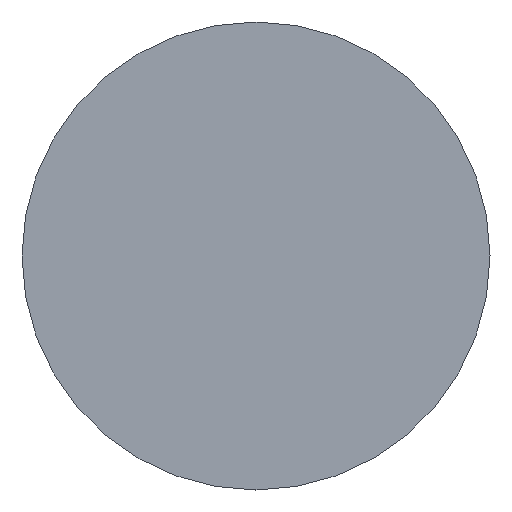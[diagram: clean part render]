
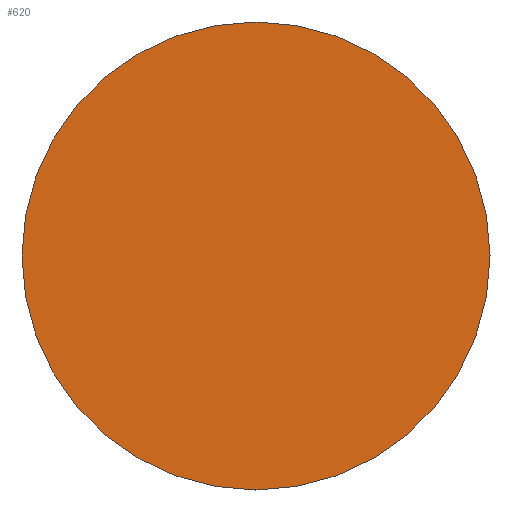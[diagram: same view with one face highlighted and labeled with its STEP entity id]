
A CAD part, left-side view. The second image highlights one B-rep face of the part: STEP entity #620.
In plain terms, the highlighted planar face has unit normal (-1, 0, 0).
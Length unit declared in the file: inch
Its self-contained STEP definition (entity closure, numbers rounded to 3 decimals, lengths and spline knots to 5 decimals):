
#10 = ORIENTED_EDGE ( 'NONE', *, *, #47, .T. ) ;
#15 = DIRECTION ( 'NONE',  ( 0., 0., 1. ) ) ;
#19 = CARTESIAN_POINT ( 'NONE',  ( -3., 0.09375, 0. ) ) ;
#34 = AXIS2_PLACEMENT_3D ( 'NONE', #274, #483, #15 ) ;
#43 = DIRECTION ( 'NONE',  ( 0., 0., 1. ) ) ;
#47 = EDGE_CURVE ( 'NONE', #157, #163, #129, .T. ) ;
#56 = ORIENTED_EDGE ( 'NONE', *, *, #448, .T. ) ;
#105 = CARTESIAN_POINT ( 'NONE',  ( -3., 0., 0.09375 ) ) ;
#129 = CIRCLE ( 'NONE', #34, 0.09375 ) ;
#157 = VERTEX_POINT ( 'NONE', #507 ) ;
#163 = VERTEX_POINT ( 'NONE', #105 ) ;
#248 = AXIS2_PLACEMENT_3D ( 'NONE', #19, #559, #352 ) ;
#274 = CARTESIAN_POINT ( 'NONE',  ( -3., 0., 0. ) ) ;
#319 = EDGE_LOOP ( 'NONE', ( #56, #10 ) ) ;
#352 = DIRECTION ( 'NONE',  ( 0., 0., -1. ) ) ;
#402 = PLANE ( 'NONE',  #248 ) ;
#448 = EDGE_CURVE ( 'NONE', #163, #157, #490, .T. ) ;
#470 = CARTESIAN_POINT ( 'NONE',  ( -3., 0., 0. ) ) ;
#476 = DIRECTION ( 'NONE',  ( -1., 0., 0. ) ) ;
#483 = DIRECTION ( 'NONE',  ( -1., 0., 0. ) ) ;
#490 = CIRCLE ( 'NONE', #582, 0.09375 ) ;
#494 = FACE_OUTER_BOUND ( 'NONE', #319, .T. ) ;
#507 = CARTESIAN_POINT ( 'NONE',  ( -3., 0., -0.09375 ) ) ;
#559 = DIRECTION ( 'NONE',  ( 1., 0., 0. ) ) ;
#582 = AXIS2_PLACEMENT_3D ( 'NONE', #470, #476, #43 ) ;
#620 = ADVANCED_FACE ( 'NONE', ( #494 ), #402, .F. ) ;
